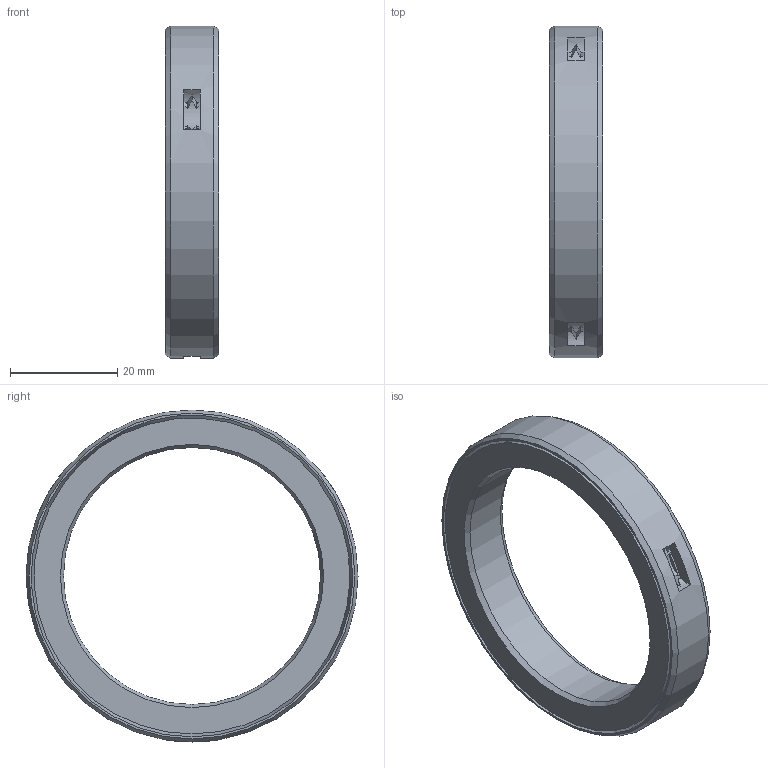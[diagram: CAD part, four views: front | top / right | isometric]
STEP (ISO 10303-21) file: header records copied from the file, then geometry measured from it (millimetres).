
FILE_DESCRIPTION(/* description */ (''),/* implementation_level */ '2;1');
FILE_NAME(/* name */ '301371 M 48x62x10.stp',/* time_stamp */ '2016-12-15T11:35:15+01:00',/* author */ (''),/* organization */ (''),/* preprocessor_version */ 'ST-DEVELOPER v15',/* originating_system */ 'SIEMENS PLM Software NX 8.5',/* authorisation */ '');
FILE_SCHEMA (('CONFIG_CONTROL_DESIGN'));
Length unit declared in the file: millimetre
Products named in the file (1): ATE0000124_01
Bounding box: 10 x 62 x 62 mm (x, y, z)
Volume: 10660.5 mm3; surface area: 9647.9 mm2
Topology: 2 solids, 2 shells, 49 faces, 143 edges, 94 vertices
Faces by surface type: cone 22, plane 16, cylinder 11
Full cylindrical faces by diameter (mm): 48 x1, 62 x1
Entity records: 1626 total; most frequent: CARTESIAN_POINT 396, ORIENTED_EDGE 240, DIRECTION 234, EDGE_CURVE 120, AXIS2_PLACEMENT_3D 114, VERTEX_POINT 84, CIRCLE 66, EDGE_LOOP 64
